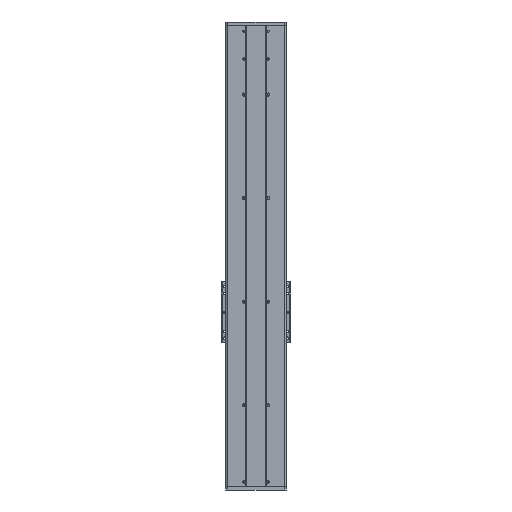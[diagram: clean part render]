
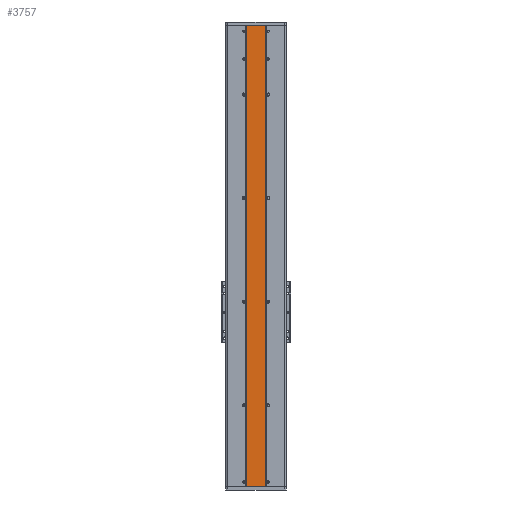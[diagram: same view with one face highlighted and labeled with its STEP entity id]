
A CAD part, front view. The second image highlights one B-rep face of the part: STEP entity #3757.
In plain terms, the highlighted planar face has unit normal (0, -1, 0).
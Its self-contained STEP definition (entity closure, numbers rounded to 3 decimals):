
#660 = VECTOR ( 'NONE', #22718, 1000. ) ;
#3063 = EDGE_LOOP ( 'NONE', ( #3112, #28495, #43997, #20951 ) ) ;
#3112 = ORIENTED_EDGE ( 'NONE', *, *, #15996, .T. ) ;
#3326 = DIRECTION ( 'NONE',  ( 0., 0., 1. ) ) ;
#3332 = VERTEX_POINT ( 'NONE', #42650 ) ;
#3757 = ADVANCED_FACE ( 'NONE', ( #15277 ), #28464, .F. ) ;
#9071 = DIRECTION ( 'NONE',  ( -1., 0., 0. ) ) ;
#9282 = CARTESIAN_POINT ( 'NONE',  ( 1.27, -85.314, 1335. ) ) ;
#11500 = DIRECTION ( 'NONE',  ( 0., 0., 1. ) ) ;
#13709 = VECTOR ( 'NONE', #3326, 1000. ) ;
#14906 = CARTESIAN_POINT ( 'NONE',  ( 58.27, -85.314, -545. ) ) ;
#15111 = LINE ( 'NONE', #14906, #41350 ) ;
#15235 = LINE ( 'NONE', #16072, #41462 ) ;
#15277 = FACE_OUTER_BOUND ( 'NONE', #3063, .T. ) ;
#15996 = EDGE_CURVE ( 'NONE', #22358, #3332, #15111, .T. ) ;
#16072 = CARTESIAN_POINT ( 'NONE',  ( 0., -85.314, 0. ) ) ;
#17330 = VERTEX_POINT ( 'NONE', #9282 ) ;
#19262 = CARTESIAN_POINT ( 'NONE',  ( 58.27, -85.314, 0. ) ) ;
#20951 = ORIENTED_EDGE ( 'NONE', *, *, #40842, .F. ) ;
#22358 = VERTEX_POINT ( 'NONE', #19262 ) ;
#22718 = DIRECTION ( 'NONE',  ( -1., 0., 0. ) ) ;
#27209 = CARTESIAN_POINT ( 'NONE',  ( 1.27, -85.314, -545. ) ) ;
#28464 = PLANE ( 'NONE',  #29275 ) ;
#28495 = ORIENTED_EDGE ( 'NONE', *, *, #33958, .T. ) ;
#29275 = AXIS2_PLACEMENT_3D ( 'NONE', #35211, #31896, #11500 ) ;
#31803 = LINE ( 'NONE', #27209, #13709 ) ;
#31896 = DIRECTION ( 'NONE',  ( 0., 1., 0. ) ) ;
#33958 = EDGE_CURVE ( 'NONE', #3332, #17330, #35932, .T. ) ;
#35211 = CARTESIAN_POINT ( 'NONE',  ( 1.27, -85.314, -545. ) ) ;
#35932 = LINE ( 'NONE', #39791, #660 ) ;
#36062 = VERTEX_POINT ( 'NONE', #36303 ) ;
#36303 = CARTESIAN_POINT ( 'NONE',  ( 1.27, -85.314, 0. ) ) ;
#39204 = EDGE_CURVE ( 'NONE', #36062, #17330, #31803, .T. ) ;
#39791 = CARTESIAN_POINT ( 'NONE',  ( 1.27, -85.314, 1335. ) ) ;
#40842 = EDGE_CURVE ( 'NONE', #22358, #36062, #15235, .T. ) ;
#41350 = VECTOR ( 'NONE', #42160, 1000. ) ;
#41462 = VECTOR ( 'NONE', #9071, 1000. ) ;
#42160 = DIRECTION ( 'NONE',  ( 0., 0., 1. ) ) ;
#42650 = CARTESIAN_POINT ( 'NONE',  ( 58.27, -85.314, 1335. ) ) ;
#43997 = ORIENTED_EDGE ( 'NONE', *, *, #39204, .F. ) ;
